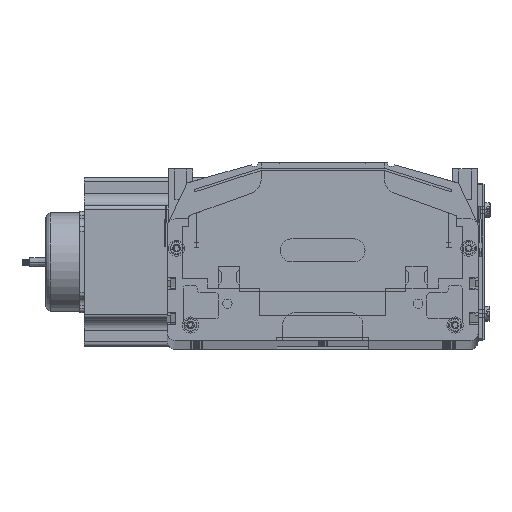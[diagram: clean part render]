
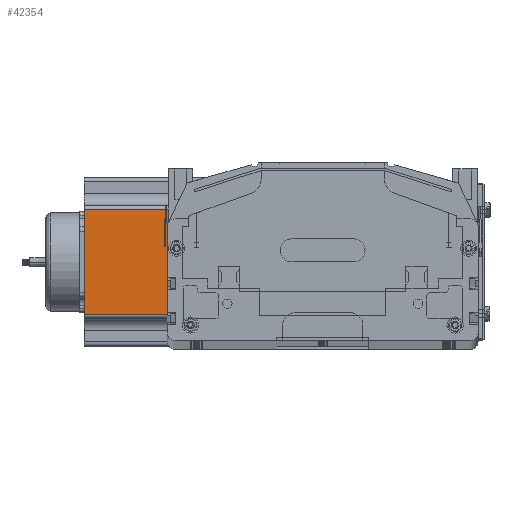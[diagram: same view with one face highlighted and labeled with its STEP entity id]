
A CAD part, top view. The second image highlights one B-rep face of the part: STEP entity #42354.
In plain terms, the highlighted planar face has unit normal (0, 0, 1) as drawn and (0, -1, 0) by its records, which use the part's own axes.
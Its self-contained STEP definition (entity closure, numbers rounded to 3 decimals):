
#42297 = VERTEX_POINT ( 'NONE', #70165 ) ;
#42299 = ORIENTED_EDGE ( 'NONE', *, *, #42909, .T. ) ;
#42300 = EDGE_CURVE ( 'NONE', #42356, #42297, #70199, .T. ) ;
#42303 = EDGE_CURVE ( 'NONE', #42356, #42352, #70062, .T. ) ;
#42306 = ORIENTED_EDGE ( 'NONE', *, *, #42303, .T. ) ;
#42352 = VERTEX_POINT ( 'NONE', #70504 ) ;
#42353 = VERTEX_POINT ( 'NONE', #70513 ) ;
#42354 = ADVANCED_FACE ( 'NONE', ( #70511 ), #70510, .F. ) ;
#42355 = ORIENTED_EDGE ( 'NONE', *, *, #42300, .F. ) ;
#42356 = VERTEX_POINT ( 'NONE', #70514 ) ;
#42357 = ORIENTED_EDGE ( 'NONE', *, *, #42919, .T. ) ;
#42909 = EDGE_CURVE ( 'NONE', #42353, #42297, #80844, .T. ) ;
#42913 = EDGE_LOOP ( 'NONE', ( #42357, #42299, #42355, #42306 ) ) ;
#42919 = EDGE_CURVE ( 'NONE', #42352, #42353, #76835, .T. ) ;
#69999 = VECTOR ( 'NONE', #70003, 1000. ) ;
#70003 = DIRECTION ( 'NONE',  ( 0., 0., -1. ) ) ;
#70037 = CARTESIAN_POINT ( 'NONE',  ( 21.048, 0., 160.5 ) ) ;
#70062 = LINE ( 'NONE', #70037, #69999 ) ;
#70165 = CARTESIAN_POINT ( 'NONE',  ( 88.952, 0., 160.5 ) ) ;
#70196 = DIRECTION ( 'NONE',  ( 1., 0., 0. ) ) ;
#70197 = VECTOR ( 'NONE', #70196, 1000. ) ;
#70198 = CARTESIAN_POINT ( 'NONE',  ( 0., 0., 160.5 ) ) ;
#70199 = LINE ( 'NONE', #70198, #70197 ) ;
#70425 = AXIS2_PLACEMENT_3D ( 'NONE', #70501, #70508, #70507 ) ;
#70501 = CARTESIAN_POINT ( 'NONE',  ( 0., 0., 160.5 ) ) ;
#70504 = CARTESIAN_POINT ( 'NONE',  ( 21.048, 0., 0. ) ) ;
#70507 = DIRECTION ( 'NONE',  ( 0., 0., 1. ) ) ;
#70508 = DIRECTION ( 'NONE',  ( 0., 1., 0. ) ) ;
#70510 = PLANE ( 'NONE',  #70425 ) ;
#70511 = FACE_OUTER_BOUND ( 'NONE', #42913, .T. ) ;
#70513 = CARTESIAN_POINT ( 'NONE',  ( 88.952, 0., 0. ) ) ;
#70514 = CARTESIAN_POINT ( 'NONE',  ( 21.048, 0., 160.5 ) ) ;
#76835 = LINE ( 'NONE', #78488, #77898 ) ;
#77898 = VECTOR ( 'NONE', #78828, 1000. ) ;
#78488 = CARTESIAN_POINT ( 'NONE',  ( 0., 0., 0. ) ) ;
#78828 = DIRECTION ( 'NONE',  ( 1., 0., 0. ) ) ;
#80684 = DIRECTION ( 'NONE',  ( 0., 0., 1. ) ) ;
#80844 = LINE ( 'NONE', #80867, #80865 ) ;
#80865 = VECTOR ( 'NONE', #80684, 1000. ) ;
#80867 = CARTESIAN_POINT ( 'NONE',  ( 88.952, 0., 160.5 ) ) ;
